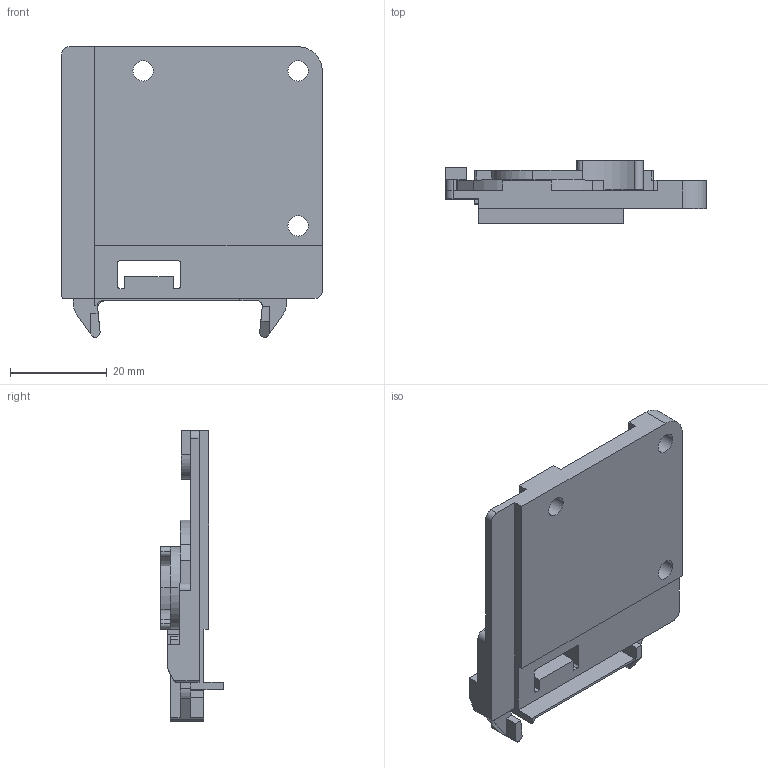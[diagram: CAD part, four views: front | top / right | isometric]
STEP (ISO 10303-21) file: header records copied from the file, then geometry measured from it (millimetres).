
FILE_DESCRIPTION (( 'STEP AP214' ), '1' );
FILE_NAME ('IMOS_Dynapro_Soft-close_Verstelladapter_links.step', '2012-02-01T09:06:49', ( 'Grass' ), ( '' ), 'SwSTEP 2.0', 'SolidWorks 2011', '' );
FILE_SCHEMA (( 'AUTOMOTIVE_DESIGN' ));
Length unit declared in the file: millimetre
Products named in the file (1): IMOS_Dynapro_Soft-close_Verstelladapter_links
Bounding box: 53.8 x 12.9 x 60 mm (x, y, z)
Volume: 13627.1 mm3; surface area: 8763.7 mm2
Topology: 1 solids, 1 shells, 158 faces, 453 edges, 297 vertices
Faces by surface type: plane 90, cylinder 62, cone 6
Entity records: 5228 total; most frequent: CARTESIAN_POINT 915, DIRECTION 906, ORIENTED_EDGE 906, EDGE_CURVE 453, VECTOR 314, LINE 314, VERTEX_POINT 297, AXIS2_PLACEMENT_3D 296
